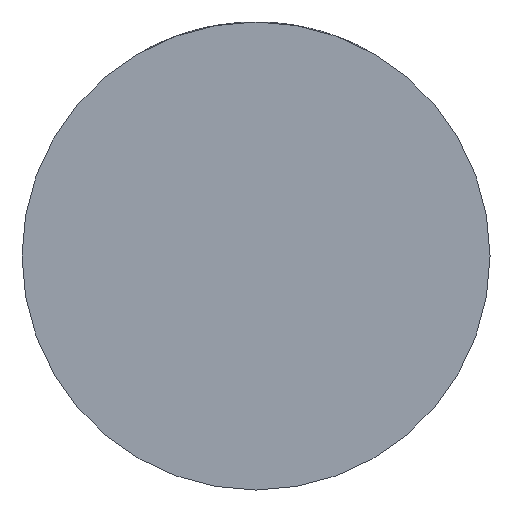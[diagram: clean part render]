
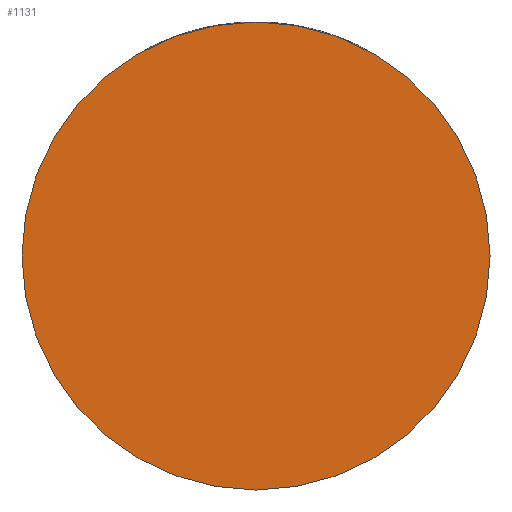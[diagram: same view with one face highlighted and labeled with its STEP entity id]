
A CAD part, front view. The second image highlights one B-rep face of the part: STEP entity #1131.
In plain terms, the highlighted planar face has unit normal (0, -1, 0).
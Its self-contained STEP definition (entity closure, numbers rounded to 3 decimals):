
#102 = EDGE_LOOP ( 'NONE', ( #3426, #4496 ) ) ;
#250 = DIRECTION ( 'NONE',  ( 0., -1., 0. ) ) ;
#312 = DIRECTION ( 'NONE',  ( 1., 0., 0. ) ) ;
#763 = CARTESIAN_POINT ( 'NONE',  ( 0., -42., 0. ) ) ;
#1071 = CIRCLE ( 'NONE', #1215, 49. ) ;
#1131 = ADVANCED_FACE ( 'NONE', ( #2059 ), #3116, .T. ) ;
#1215 = AXIS2_PLACEMENT_3D ( 'NONE', #3418, #250, #4456 ) ;
#1709 = VERTEX_POINT ( 'NONE', #4091 ) ;
#1815 = EDGE_CURVE ( 'NONE', #3440, #1709, #4553, .T. ) ;
#2059 = FACE_OUTER_BOUND ( 'NONE', #102, .T. ) ;
#2119 = DIRECTION ( 'NONE',  ( 1., 0., 0. ) ) ;
#2486 = AXIS2_PLACEMENT_3D ( 'NONE', #763, #4554, #2119 ) ;
#3071 = DIRECTION ( 'NONE',  ( 0., -1., 0. ) ) ;
#3116 = PLANE ( 'NONE',  #3754 ) ;
#3418 = CARTESIAN_POINT ( 'NONE',  ( 0., -42., 0. ) ) ;
#3426 = ORIENTED_EDGE ( 'NONE', *, *, #1815, .T. ) ;
#3440 = VERTEX_POINT ( 'NONE', #4529 ) ;
#3754 = AXIS2_PLACEMENT_3D ( 'NONE', #4519, #3071, #312 ) ;
#4091 = CARTESIAN_POINT ( 'NONE',  ( 49., -42., 0. ) ) ;
#4443 = EDGE_CURVE ( 'NONE', #1709, #3440, #1071, .T. ) ;
#4456 = DIRECTION ( 'NONE',  ( 1., 0., 0. ) ) ;
#4496 = ORIENTED_EDGE ( 'NONE', *, *, #4443, .T. ) ;
#4519 = CARTESIAN_POINT ( 'NONE',  ( 0., -42., 0. ) ) ;
#4529 = CARTESIAN_POINT ( 'NONE',  ( -49., -42., 0. ) ) ;
#4553 = CIRCLE ( 'NONE', #2486, 49. ) ;
#4554 = DIRECTION ( 'NONE',  ( 0., -1., 0. ) ) ;
